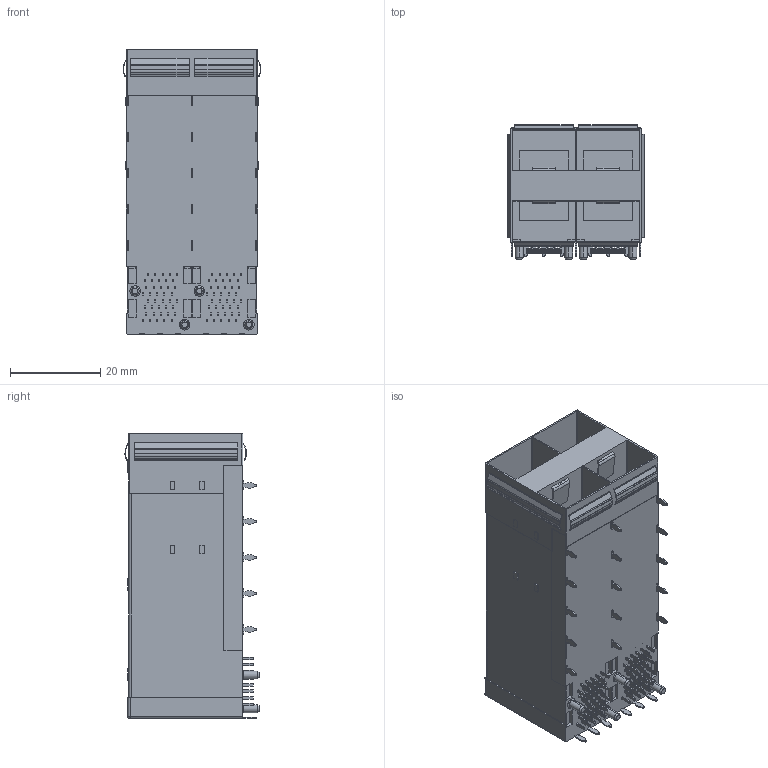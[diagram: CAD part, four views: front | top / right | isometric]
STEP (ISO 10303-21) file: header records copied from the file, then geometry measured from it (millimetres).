
FILE_DESCRIPTION (( 'STEP AP203' ), '1' );
FILE_NAME ('22200_SFP+ 2X2 拸絳嫖翐.STEP', '2024-06-05T00:26:29', ( '' ), ( '' ), 'SwSTEP 2.0', 'SolidWorks 2018', '' );
FILE_SCHEMA (( 'CONFIG_CONTROL_DESIGN' ));
Length unit declared in the file: millimetre
Products named in the file (1): 22200_SFP+ 2X2 拸絳嫖翐
Bounding box: 30.56 x 29.78 x 63.25 mm (x, y, z)
Volume: 23788.5 mm3; surface area: 19144.6 mm2
Topology: 1 solids, 1 shells, 1163 faces, 3261 edges, 2218 vertices
Faces by surface type: plane 853, cylinder 292, cone 16, sphere 2
Entity records: 37514 total; most frequent: CARTESIAN_POINT 6641, ORIENTED_EDGE 6518, DIRECTION 6191, EDGE_CURVE 3259, LINE 2655, VECTOR 2655, VERTEX_POINT 2218, AXIS2_PLACEMENT_3D 1768
